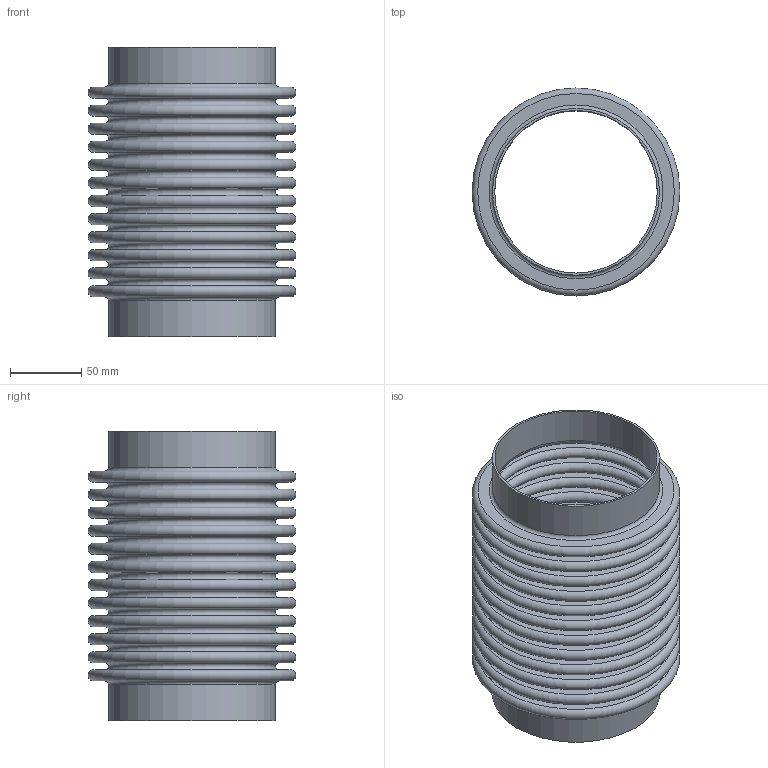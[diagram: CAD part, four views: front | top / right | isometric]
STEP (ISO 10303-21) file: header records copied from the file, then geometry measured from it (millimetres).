
FILE_DESCRIPTION(/* description */ ('STOCK BELLOWS: U.S-4-12-300L, 4.500 I.D., 5.750 O.D., 2 PLY, 22 GA (0.030 THICK), 12 CONS., 0.500 PITCH, 1.000 TANGENT. '),/* implementation_level */ '2;1');
FILE_NAME(/* name */ 'STOCK BELLOW - US-4-12-300L.stp',/* time_stamp */ '2026-07-21T13:26:02-05:00',/* author */ ('KennethB'),/* organization */ (''),/* preprocessor_version */ 'ST-DEVELOPER v20.1',/* originating_system */ 'Autodesk Inventor 2026',/* authorisation */ '');
FILE_SCHEMA (('AUTOMOTIVE_DESIGN { 1 0 10303 214 3 1 1 }'));
Length unit declared in the file: inch
Products named in the file (1): STOCK BELLOW - US-4-12-300L
Bounding box: 146.05 x 146.05 x 203.2 mm (x, y, z)
Volume: 297049.1 mm3; surface area: 393155.5 mm2
Topology: 3 solids, 3 shells, 108 faces, 162 edges, 109 vertices
Faces by surface type: plane 54, torus 50, cylinder 4
Full cylindrical faces by diameter (mm): 114.3 x2, 117.348 x2
Entity records: 2550 total; most frequent: DIRECTION 538, CARTESIAN_POINT 380, ORIENTED_EDGE 324, AXIS2_PLACEMENT_3D 267, EDGE_LOOP 162, EDGE_CURVE 162, CIRCLE 158, FACE_OUTER_BOUND 108
